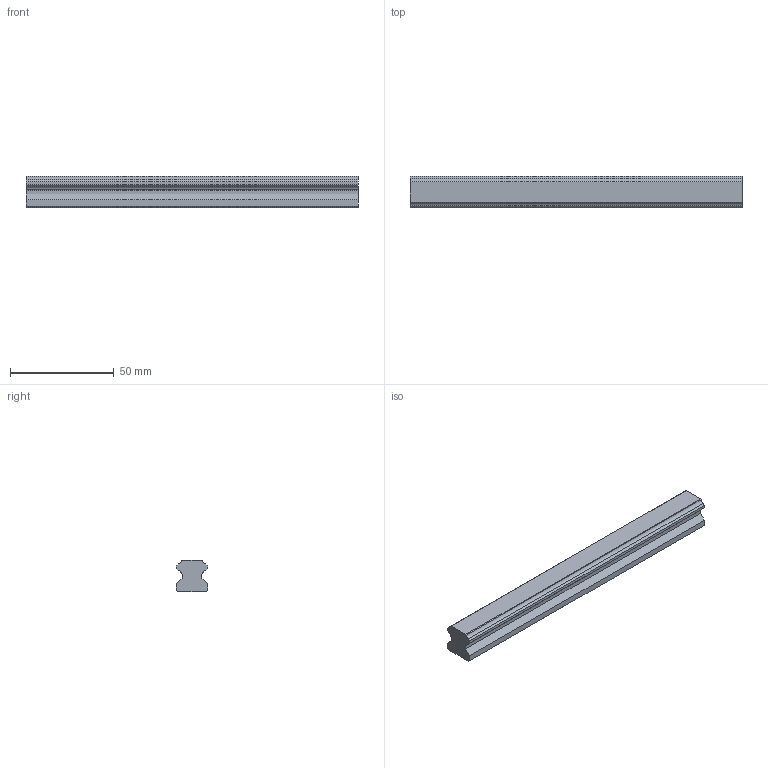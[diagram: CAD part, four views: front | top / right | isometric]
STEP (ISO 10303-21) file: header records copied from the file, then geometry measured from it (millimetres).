
FILE_DESCRIPTION(('starvars output'),'2;1');
FILE_NAME('cv20190626230301000299561.stp','23:03:02 2019/06/26',( 'Thomas Industrial Network Germany GmbH'),( 'Thomas Industrial Network Germany GmbH'),'unknown preprocess','ACIS' ,'unknown authorization');
FILE_SCHEMA(('CONFIG_CONTROL_DESIGN {UNKNOWN IMPLEMENTATION LEVEL}'));
Length unit declared in the file: millimetre
Products named in the file (1): PRODUCT_ID_1
Bounding box: 160 x 15 x 15 mm (x, y, z)
Volume: 30117.5 mm3; surface area: 10558.6 mm2
Topology: 1 solids, 1 shells, 59 faces, 144 edges, 87 vertices
Faces by surface type: plane 25, cone 18, cylinder 16
Entity records: 1596 total; most frequent: ORIENTED_EDGE 276, CARTESIAN_POINT 251, DIRECTION 234, EDGE_CURVE 138, VECTOR 94, LINE 94, VERTEX_POINT 87, AXIS2_PLACEMENT_3D 70
